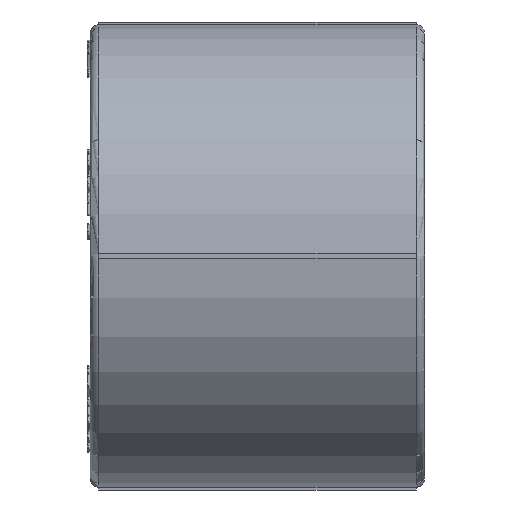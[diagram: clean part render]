
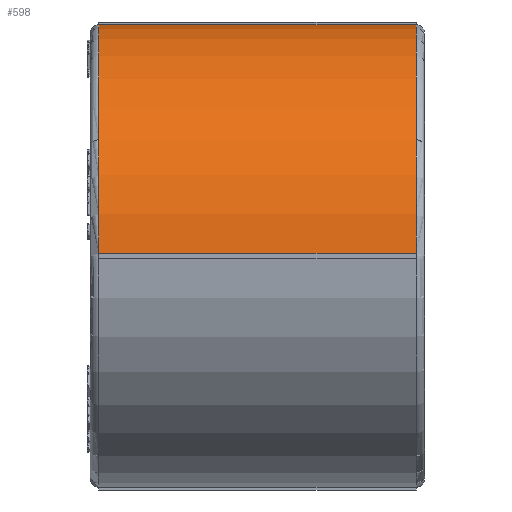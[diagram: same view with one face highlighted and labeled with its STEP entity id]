
A CAD part, left-side view. The second image highlights one B-rep face of the part: STEP entity #598.
In plain terms, the highlighted cylindrical face has radius 41.5 mm (diameter 83 mm), a partial arc.
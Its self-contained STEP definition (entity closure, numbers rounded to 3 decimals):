
#598=ADVANCED_FACE('',(#4182),#4184,.T.);
#4182=FACE_BOUND('',#4183,.T.);
#4183=EDGE_LOOP('',(#8495,#8496,#8497,#8498));
#4184=CYLINDRICAL_SURFACE('',#4185,41.5);
#4185=AXIS2_PLACEMENT_3D('',#4186,#4187,#4188);
#4186=CARTESIAN_POINT('',(0.,-30.,0.));
#4187=DIRECTION('',(0.,1.,0.));
#4188=DIRECTION('',(-1.,0.,0.));
#8495=ORIENTED_EDGE('',*,*,#10165,.F.);
#8496=ORIENTED_EDGE('',*,*,#10166,.T.);
#8497=ORIENTED_EDGE('',*,*,#10167,.F.);
#8498=ORIENTED_EDGE('',*,*,#10161,.F.);
#10161=EDGE_CURVE('',#12796,#12798,#12799,.T.);
#10165=EDGE_CURVE('',#12805,#12796,#12806,.T.);
#10166=EDGE_CURVE('',#12805,#12807,#12808,.T.);
#10167=EDGE_CURVE('',#12798,#12807,#12809,.F.);
#12796=VERTEX_POINT('',#18561);
#12798=VERTEX_POINT('',#18566);
#12799=CIRCLE('',#18567,41.5);
#12805=VERTEX_POINT('',#18585);
#12806=LINE('',#18586,#18587);
#12807=VERTEX_POINT('',#18589);
#12808=CIRCLE('',#18590,41.5);
#12809=LINE('',#18594,#18595);
#18561=CARTESIAN_POINT('',(-41.497,28.5,0.5));
#18566=CARTESIAN_POINT('',(-0.5,28.5,41.497));
#18567=AXIS2_PLACEMENT_3D('',#18568,#18569,#18570);
#18568=CARTESIAN_POINT('',(0.,28.5,0.));
#18569=DIRECTION('',(0.,1.,0.));
#18570=DIRECTION('',(-1.,0.,0.012));
#18585=CARTESIAN_POINT('',(-41.497,-28.5,0.5));
#18586=CARTESIAN_POINT('',(-41.497,-28.5,0.5));
#18587=VECTOR('',#18588,1.);
#18588=DIRECTION('',(0.,1.,0.));
#18589=CARTESIAN_POINT('',(-0.5,-28.5,41.497));
#18590=AXIS2_PLACEMENT_3D('',#18591,#18592,#18593);
#18591=CARTESIAN_POINT('',(0.,-28.5,0.));
#18592=DIRECTION('',(0.,1.,0.));
#18593=DIRECTION('',(-1.,0.,0.012));
#18594=CARTESIAN_POINT('',(-0.5,-28.5,41.497));
#18595=VECTOR('',#18596,1.);
#18596=DIRECTION('',(0.,1.,0.));
